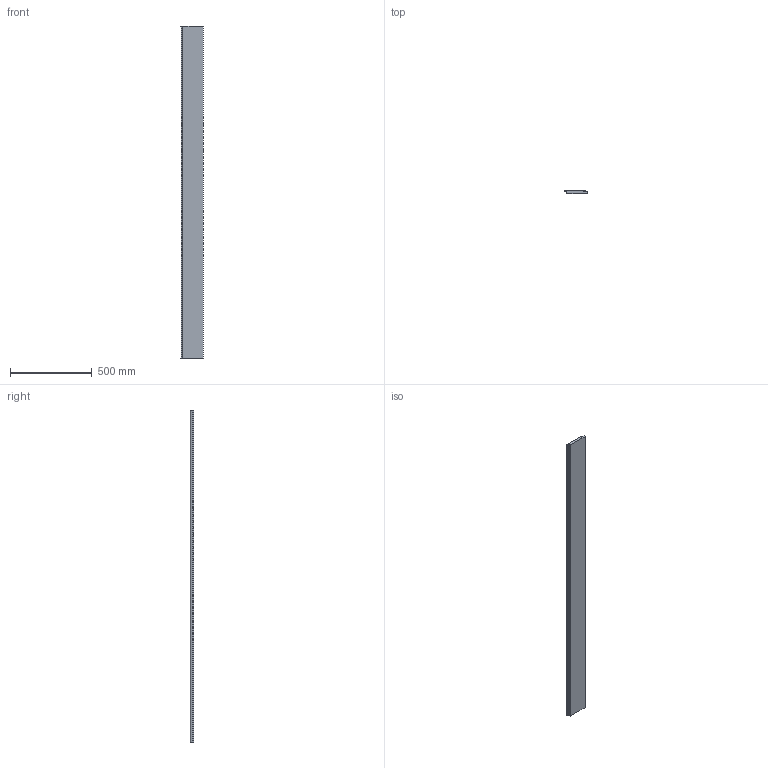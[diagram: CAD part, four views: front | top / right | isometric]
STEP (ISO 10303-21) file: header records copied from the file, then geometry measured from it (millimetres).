
FILE_DESCRIPTION((''),'2;1');
FILE_NAME('E:\Markus Voss\58002-10 aMbooo signature cladding\58002-10.stp','2020-03-01T13:50:42',('kamrowski'),(''),'Autodesk Inventor 2013','Autodesk Inventor 2013','');
FILE_SCHEMA(('AUTOMOTIVE_DESIGN { 1 0 10303 214 1 1 1 1 }'));
Length unit declared in the file: millimetre
Products named in the file (1): 58002-10
Bounding box: 139.98 x 20 x 2032 mm (x, y, z)
Volume: 5017442.9 mm3; surface area: 675707 mm2
Topology: 1 solids, 1 shells, 16 faces, 42 edges, 28 vertices
Faces by surface type: plane 11, cylinder 5
Entity records: 522 total; most frequent: CARTESIAN_POINT 87, DIRECTION 86, ORIENTED_EDGE 84, EDGE_CURVE 42, VECTOR 32, LINE 32, VERTEX_POINT 28, AXIS2_PLACEMENT_3D 27
